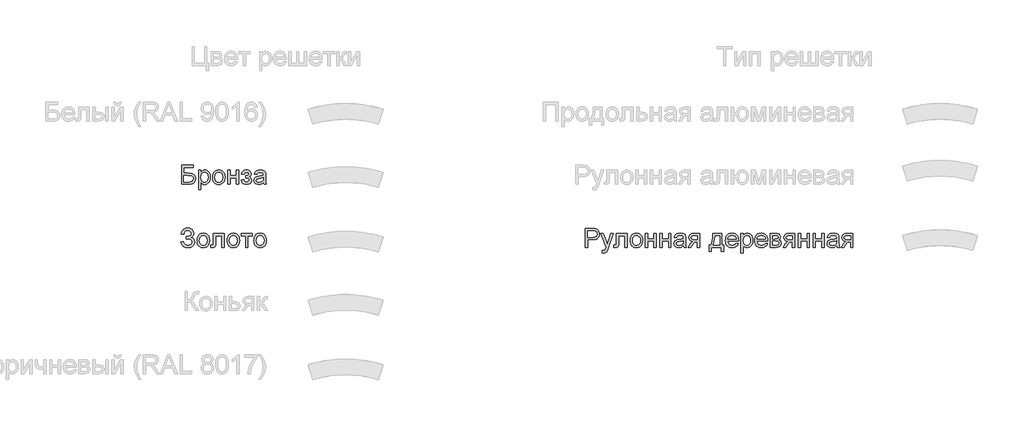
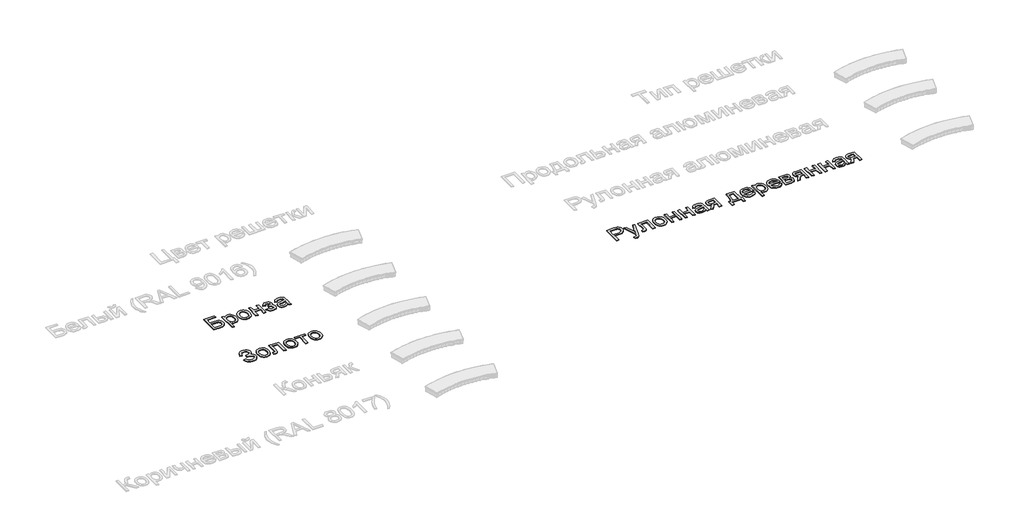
# One storey, part 4 of 9: 3 proxies.
"""IFC4 building model written with IfcOpenShell, lengths in millimetres."""

from ifc_helpers import new_model, si_unit, origin, origin_with_axes, place, context, project, spatial, polyline, outline, extrude, element, save

model = new_model("IFC4")

# Units and contexts
model_context = context("Model", 3, world=origin())
ifc_project = project(units=[si_unit("LENGTHUNIT", "METRE", prefix="MILLI")], contexts=[model_context])

# Site, building, storey
site = spatial("IfcSite", under=ifc_project)
building = spatial("IfcBuilding", under=site)
storey = spatial("IfcBuildingStorey", under=building, Name="Уровень 1", Elevation=0.0)

# Proxies
placement = place(None, origin())
element("IfcBuildingElementProxy", 1, Name="Текст модели 1", ObjectType="Текст модели 1", at=placement, inside=storey, context=model_context, shape_type="SweptSolid", body=[
    extrude(outline(polyline([(-567.2180142, -3424.9415006), (-378.8624326, -3424.9415006), (-378.8624326, -3462.6126169), (-529.5468979, -3462.6126169), (-529.5468979, -3552.0815182), (-458.9871312, -3552.0815182), (-423.9095829, -3553.9945045), (-396.815074, -3559.7334637), (-376.0113472, -3570.7883176), (-359.8061453, -3588.6489885), (-349.3766907, -3611.6416132), (-345.9002059, -3638.0923286), (-348.3742123, -3660.3032041), (-355.7962315, -3681.0241575), (-368.1294754, -3699.1699369), (-385.3371557, -3713.6552904), (-411.8798417, -3723.1466459), (-452.2181025, -3726.3104311), (-567.2180142, -3726.3104311), (-567.2180142, -3424.9415006)]), holes=[polyline([(-529.5468979, -3688.6393148), (-448.8335881, -3688.6393148), (-420.3043394, -3685.5307119), (-399.9052828, -3676.2049033), (-387.6548123, -3660.661889), (-383.5713222, -3638.901669), (-385.9073728, -3622.6964671), (-392.9155248, -3609.397533), (-404.0899405, -3599.5382955), (-418.9247819, -3593.6521836), (-475.6889738, -3589.7526345), (-529.5468979, -3589.7526345), (-529.5468979, -3688.6393148)])]), origin_with_axes(), (0.0, 0.0, 1.0), 10.0),
    extrude(outline(polyline([(-298.8113105, -3811.0704428), (-298.8113105, -3504.9926228), (-261.1401942, -3504.9926228), (-261.1401942, -3541.9279751), (-248.8529355, -3523.7086193), (-235.0941489, -3510.6947937), (-219.0544939, -3502.8864984), (-199.9246302, -3500.2837332), (-174.448802, -3503.925765), (-152.1735472, -3514.8518603), (-134.0369648, -3532.3998314), (-120.977154, -3555.9074909), (-113.0860852, -3583.6641875), (-110.455729, -3613.9592698), (-113.4263761, -3646.1765355), (-122.3383174, -3674.9908928), (-136.9064444, -3698.9400106), (-156.8456485, -3716.5615582), (-180.0681995, -3727.40488), (-204.4863669, -3731.0193206), (-221.8044118, -3728.6004965), (-237.2646527, -3721.3440241), (-250.4992075, -3710.3903377), (-261.1401942, -3696.8798715), (-261.1401942, -3811.0704428), (-298.8113105, -3811.0704428)]), holes=[polyline([(-261.1401942, -3617.4173605), (-257.0659011, -3651.1889277), (-244.8430218, -3674.8069518), (-226.807607, -3688.7128912), (-205.2957073, -3693.3482043), (-183.4343197, -3688.5473443), (-164.9390524, -3674.1447642), (-152.3298971, -3649.6622174), (-148.1268453, -3614.6214573), (-152.2287295, -3581.0338312), (-164.5343822, -3557.0847133), (-182.5422059, -3542.7373155), (-203.7506029, -3537.9548496), (-225.0417734, -3543.0408181), (-243.7393758, -3558.2987239), (-256.7899896, -3583.2503202), (-261.1401942, -3617.4173605)])]), origin_with_axes(), (0.0, 0.0, 1.0), 10.0),
    extrude(outline(polyline([(-77.4935022, -3615.6515269), (-75.4563556, -3586.988921), (-69.344916, -3562.2902435), (-59.1591832, -3541.5554946), (-44.8991574, -3524.7846741), (-30.5425625, -3514.0655125), (-14.6960456, -3506.4089685), (2.6403934, -3501.815042), (21.4667545, -3500.2837332), (42.249788, -3502.1484351), (61.0416602, -3507.7425407), (77.842371, -3517.06605), (92.6519206, -3530.1189631), (104.7391434, -3546.4598214), (113.372874, -3565.6471667), (118.5531123, -3587.680999), (120.2798584, -3612.5613182), (117.2264379, -3650.6187106), (108.0661762, -3679.5894177), (93.0657878, -3701.2852584), (72.4919873, -3717.5180514), (48.0554257, -3727.6440033), (21.4667545, -3731.0193206), (0.3802184, -3729.1615165), (-18.5863977, -3723.5881043), (-35.4330938, -3714.2990839), (-50.1598699, -3701.2944554), (-62.118334, -3684.7949479), (-70.6600941, -3665.0212907), (-75.7851502, -3641.9734837), (-77.4935022, -3615.6515269)]), holes=[polyline([(-39.8223859, -3615.5779505), (-35.4629842, -3649.6714144), (-22.3847793, -3673.9608232), (-2.7030926, -3688.501359), (21.4667545, -3693.3482043), (45.526237, -3688.4737679), (65.1711355, -3673.8504586), (78.2493405, -3649.2391531), (82.6087421, -3614.4007281), (78.2217493, -3581.3005456), (65.0607709, -3557.3422307), (45.3882813, -3542.8016948), (21.4667545, -3537.9548496), (-2.7030926, -3542.7833007), (-22.3847793, -3557.2686543), (-35.4629842, -3581.5028807), (-39.8223859, -3615.5779505)])]), origin_with_axes(), (0.0, 0.0, 1.0), 10.0),
    extrude(outline(polyline([(162.6598643, -3504.9926228), (200.3309806, -3504.9926228), (200.3309806, -3589.7526345), (299.2176609, -3589.7526345), (299.2176609, -3504.9926228), (336.8887772, -3504.9926228), (336.8887772, -3726.3104311), (299.2176609, -3726.3104311), (299.2176609, -3627.4237508), (200.3309806, -3627.4237508), (200.3309806, -3726.3104311), (162.6598643, -3726.3104311), (162.6598643, -3504.9926228)])), origin_with_axes(), (0.0, 0.0, 1.0), 10.0),
    extrude(outline(polyline([(445.1932366, -3627.4237508), (445.1932366, -3589.7526345), (474.9181018, -3588.2811065), (489.9276872, -3580.44522), (495.2251879, -3573.0967771), (496.9910215, -3564.0744712), (494.6273797, -3553.3599081), (487.5364542, -3545.0549721), (476.7115265, -3539.7298802), (463.1458779, -3537.9548496), (449.4330766, -3539.7206831), (437.9459613, -3545.0181839), (428.684532, -3553.8473517), (421.6487889, -3566.2081868), (379.268783, -3561.4992972), (390.507578, -3534.717488), (407.5956967, -3515.5876242), (430.5331391, -3504.109706), (459.3199052, -3500.2837332), (490.810604, -3504.9466375), (514.6493573, -3518.9353504), (529.6589427, -3539.3987864), (534.6621378, -3563.48586), (532.8825086, -3575.8466951), (527.5436212, -3586.8831549), (518.6454754, -3596.5952396), (506.1880714, -3604.9829491), (520.7286072, -3615.4491918), (531.0936824, -3628.4538204), (537.3016911, -3644.0336229), (539.3710273, -3662.2253875), (534.1195118, -3689.9544929), (518.3649654, -3711.9262451), (493.1742458, -3726.2460517), (459.6142108, -3731.0193206), (426.7899398, -3726.6047367), (401.6727965, -3713.3609849), (384.2627811, -3691.2880651), (374.5598935, -3660.3859775), (416.9398993, -3655.677088), (423.2858638, -3671.6063784), (433.9360475, -3683.4889668), (447.6580459, -3690.8833949), (463.2194543, -3693.3482043), (478.3761925, -3690.9845625), (490.7370276, -3683.893637), (498.9591902, -3673.1238916), (501.699911, -3659.72379), (499.9984568, -3649.1103944), (494.8940941, -3639.9317386), (480.3995435, -3629.3367372), (452.5508765, -3627.2030216), (445.1932366, -3627.4237508)])), origin_with_axes(), (0.0, 0.0, 1.0), 10.0),
    extrude(outline(polyline([(727.7266089, -3698.0570939), (709.7279822, -3713.4897435), (691.1959267, -3723.5881043), (671.707378, -3729.1615165), (650.8392719, -3731.0193206), (619.3577701, -3726.5495544), (596.1352192, -3713.1402557), (581.8154125, -3692.7779872), (577.0421436, -3667.4493119), (578.8447654, -3651.8327212), (584.2526307, -3637.6508702), (592.594355, -3625.5107644), (603.1985535, -3616.0194089), (629.5756925, -3603.6585739), (662.1700373, -3597.9931912), (700.6872822, -3592.0335028), (727.5058797, -3585.0437449), (727.7266089, -3576.6560354), (725.1330408, -3559.8438283), (717.3523366, -3548.8441566), (699.9515182, -3540.6771763), (675.7080947, -3537.9548496), (653.267293, -3539.7666684), (637.59552, -3545.2021249), (626.9085481, -3555.2545004), (619.4221495, -3570.9170763), (581.7510332, -3566.2081868), (588.2901356, -3545.6067951), (598.0482056, -3529.4199873), (611.9357509, -3517.0407581), (630.8632795, -3507.8621023), (654.0122541, -3502.1783255), (680.5641371, -3500.2837332), (706.0307682, -3501.9575963), (726.2182927, -3506.9791856), (741.4394102, -3514.5299635), (752.0068205, -3523.7913927), (759.0149725, -3535.2417198), (763.5583152, -3549.3591914), (765.3977252, -3582.3214182), (765.3977252, -3629.1895844), (767.3107115, -3694.6357913), (774.8155042, -3726.3104311), (737.1443879, -3726.3104311), (727.7266089, -3698.0570939)]), holes=[polyline([(727.7266089, -3622.7148612), (666.9525033, -3634.2663559), (634.5420995, -3640.373197), (619.8636079, -3650.3060109), (614.7132599, -3664.8005615), (617.5183602, -3676.0025682), (625.9336608, -3685.181224), (639.7752209, -3691.3064592), (658.8590994, -3693.3482043), (679.0926091, -3691.0949271), (696.9716741, -3684.3350954), (711.4662247, -3674.3746904), (721.5461913, -3662.5196931), (726.0159576, -3650.3060109), (727.5058797, -3633.3834391), (727.7266089, -3622.7148612)])]), origin_with_axes(), (0.0, 0.0, 1.0), 10.0),
])
element("IfcBuildingElementProxy", 2, Name="Текст модели 1", ObjectType="Текст модели 1", at=placement, inside=storey, context=model_context, shape_type="SweptSolid", body=[
    extrude(outline(polyline([(-576.6357932, -4641.5504194), (-538.9646769, -4632.1326403), (-531.0092288, -4652.5224999), (-515.8248994, -4672.9307536), (-493.9635119, -4688.2438416), (-465.9768891, -4693.3482043), (-437.6223843, -4689.5130345), (-415.9817259, -4678.0075251), (-402.2689246, -4661.0757563), (-397.6979908, -4640.9618082), (-402.6919889, -4619.8913669), (-417.6739831, -4603.6217857), (-441.2644161, -4593.2199223), (-472.0837302, -4589.7526345), (-491.8757816, -4589.7526345), (-491.8757816, -4552.0815182), (-449.2382583, -4549.0280976), (-435.3415159, -4543.6018382), (-423.1554249, -4533.429901), (-414.6573508, -4520.0297993), (-411.8246594, -4504.9190464), (-415.5954499, -4487.1779372), (-426.9078212, -4471.9200314), (-444.6581275, -4461.4078034), (-467.7427227, -4457.9037274), (-488.6108288, -4460.598463), (-506.1863912, -4468.6826699), (-519.6508722, -4481.2182488), (-528.1857345, -4497.2671009), (-534.2557874, -4523.8281809), (-571.9269037, -4514.4104019), (-560.2236577, -4473.2076184), (-550.8093275, -4457.0208106), (-539.0198592, -4443.7770588), (-524.8552528, -4433.4763629), (-508.3155082, -4426.118723), (-489.4006255, -4421.7041391), (-468.1106047, -4420.2326111), (-447.5988842, -4421.7616206), (-429.3266453, -4426.3486493), (-413.2938881, -4433.993697), (-399.5006126, -4444.6967638), (-388.4112697, -4457.4461742), (-380.4903105, -4471.2302527), (-375.7377349, -4486.0489993), (-374.1535431, -4501.902414), (-376.6183525, -4521.726655), (-384.0127806, -4539.1872542), (-396.3368274, -4554.2842116), (-413.590493, -4567.0175272), (-392.6396134, -4576.6652325), (-375.4043419, -4592.9532078), (-363.8712413, -4614.4835016), (-360.0268745, -4639.8581622), (-361.870883, -4658.489086), (-367.4029085, -4675.5335187), (-376.622951, -4690.9914603), (-389.5310105, -4704.8629108), (-405.4832935, -4716.3063401), (-423.8360065, -4724.4802182), (-444.5891496, -4729.384545), (-467.7427227, -4731.0193206), (-505.9472679, -4725.4275143), (-522.3042211, -4718.4377564), (-536.8309614, -4708.6520953), (-549.5274887, -4696.0705311), (-560.3938032, -4680.6930637), (-576.6357932, -4641.5504194)])), origin_with_axes(), (0.0, 0.0, 1.0), 10.0),
    extrude(outline(polyline([(-322.3557582, -4615.6515269), (-320.3186116, -4586.988921), (-314.207172, -4562.2902435), (-304.0214392, -4541.5554946), (-289.7614134, -4524.7846741), (-275.4048185, -4514.0655125), (-259.5583016, -4506.4089685), (-242.2218626, -4501.815042), (-223.3955015, -4500.2837332), (-202.612468, -4502.1484351), (-183.8205958, -4507.7425407), (-167.019885, -4517.06605), (-152.2103354, -4530.1189631), (-140.1231126, -4546.4598214), (-131.489382, -4565.6471667), (-126.3091437, -4587.680999), (-124.5823976, -4612.5613182), (-127.6358181, -4650.6187106), (-136.7960798, -4679.5894177), (-151.7964682, -4701.2852584), (-172.3702687, -4717.5180514), (-196.8068303, -4727.6440033), (-223.3955015, -4731.0193206), (-244.4820376, -4729.1615165), (-263.4486537, -4723.5881043), (-280.2953498, -4714.2990839), (-295.0221259, -4701.2944554), (-306.98059, -4684.7949479), (-315.5223501, -4665.0212907), (-320.6474062, -4641.9734837), (-322.3557582, -4615.6515269)]), holes=[polyline([(-284.6846419, -4615.5779505), (-280.3252402, -4649.6714144), (-267.2470353, -4673.9608232), (-247.5653486, -4688.501359), (-223.3955015, -4693.3482043), (-199.336019, -4688.4737679), (-179.6911204, -4673.8504586), (-166.6129155, -4649.2391531), (-162.2535139, -4614.4007281), (-166.6405067, -4581.3005456), (-179.801485, -4557.3422307), (-199.4739747, -4542.8016948), (-223.3955015, -4537.9548496), (-247.5653486, -4542.7833007), (-267.2470353, -4557.2686543), (-280.3252402, -4581.5028807), (-284.6846419, -4615.5779505)])]), origin_with_axes(), (0.0, 0.0, 1.0), 10.0),
    extrude(outline(polyline([(-63.3668336, -4504.9926228), (106.1531898, -4504.9926228), (106.1531898, -4726.0897019), (68.4820735, -4726.0897019), (68.4820735, -4542.6637391), (-25.6957173, -4542.6637391), (-25.6957173, -4648.2458717), (-28.234103, -4696.9534479), (-32.9889778, -4707.9807107), (-42.1768306, -4717.5180514), (-56.1195583, -4724.1123362), (-75.1390574, -4726.3104311), (-105.7468394, -4724.3974447), (-105.7468394, -4688.6393148), (-88.897844, -4688.6393148), (-71.8649077, -4686.3216582), (-65.0590907, -4678.9640183), (-63.3668336, -4646.1121561), (-63.3668336, -4504.9926228)])), origin_with_axes(), (0.0, 0.0, 1.0), 10.0),
    extrude(outline(polyline([(153.2420852, -4615.6515269), (155.2792317, -4586.988921), (161.3906714, -4562.2902435), (171.5764041, -4541.5554946), (185.83643, -4524.7846741), (200.1930248, -4514.0655125), (216.0395418, -4506.4089685), (233.3759808, -4501.815042), (252.2023419, -4500.2837332), (272.9853754, -4502.1484351), (291.7772475, -4507.7425407), (308.5779584, -4517.06605), (323.387508, -4530.1189631), (335.4747308, -4546.4598214), (344.1084613, -4565.6471667), (349.2886997, -4587.680999), (351.0154458, -4612.5613182), (347.9620252, -4650.6187106), (338.8017636, -4679.5894177), (323.8013752, -4701.2852584), (303.2275746, -4717.5180514), (278.7910131, -4727.6440033), (252.2023419, -4731.0193206), (231.1158058, -4729.1615165), (212.1491897, -4723.5881043), (195.3024936, -4714.2990839), (180.5757174, -4701.2944554), (168.6172533, -4684.7949479), (160.0754933, -4665.0212907), (154.9504372, -4641.9734837), (153.2420852, -4615.6515269)]), holes=[polyline([(190.9132015, -4615.5779505), (195.2726031, -4649.6714144), (208.3508081, -4673.9608232), (228.0324948, -4688.501359), (252.2023419, -4693.3482043), (276.2618244, -4688.4737679), (295.9067229, -4673.8504586), (308.9849278, -4649.2391531), (313.3443295, -4614.4007281), (308.9573367, -4581.3005456), (295.7963583, -4557.3422307), (276.1238686, -4542.8016948), (252.2023419, -4537.9548496), (228.0324948, -4542.7833007), (208.3508081, -4557.2686543), (195.2726031, -4581.5028807), (190.9132015, -4615.5779505)])]), origin_with_axes(), (0.0, 0.0, 1.0), 10.0),
    extrude(outline(polyline([(374.5598935, -4504.9926228), (553.4976959, -4504.9926228), (553.4976959, -4542.6637391), (482.8643529, -4542.6637391), (482.8643529, -4726.3104311), (445.1932366, -4726.3104311), (445.1932366, -4542.6637391), (374.5598935, -4542.6637391), (374.5598935, -4504.9926228)])), origin_with_axes(), (0.0, 0.0, 1.0), 10.0),
    extrude(outline(polyline([(577.0421436, -4615.6515269), (579.0792902, -4586.988921), (585.1907298, -4562.2902435), (595.3764626, -4541.5554946), (609.6364884, -4524.7846741), (623.9930833, -4514.0655125), (639.8396002, -4506.4089685), (657.1760392, -4501.815042), (676.0024003, -4500.2837332), (696.7854338, -4502.1484351), (715.577306, -4507.7425407), (732.3780168, -4517.06605), (747.1875664, -4530.1189631), (759.2747892, -4546.4598214), (767.9085198, -4565.6471667), (773.0887581, -4587.680999), (774.8155042, -4612.5613182), (771.7620837, -4650.6187106), (762.601822, -4679.5894177), (747.6014336, -4701.2852584), (727.0276331, -4717.5180514), (702.5910715, -4727.6440033), (676.0024003, -4731.0193206), (654.9158642, -4729.1615165), (635.9492481, -4723.5881043), (619.102552, -4714.2990839), (604.3757759, -4701.2944554), (592.4173118, -4684.7949479), (583.8755517, -4665.0212907), (578.7504957, -4641.9734837), (577.0421436, -4615.6515269)]), holes=[polyline([(614.7132599, -4615.5779505), (619.0726616, -4649.6714144), (632.1508665, -4673.9608232), (651.8325533, -4688.501359), (676.0024003, -4693.3482043), (700.0618828, -4688.4737679), (719.7067814, -4673.8504586), (732.7849863, -4649.2391531), (737.1443879, -4614.4007281), (732.7573951, -4581.3005456), (719.5964168, -4557.3422307), (699.9239271, -4542.8016948), (676.0024003, -4537.9548496), (651.8325533, -4542.7833007), (632.1508665, -4557.2686543), (619.0726616, -4581.5028807), (614.7132599, -4615.5779505)])]), origin_with_axes(), (0.0, 0.0, 1.0), 10.0),
])
element("IfcBuildingElementProxy", 3, Name="Текст модели 1", ObjectType="Текст модели 1", at=placement, inside=storey, context=model_context, shape_type="SweptSolid", body=[
    extrude(outline(polyline([(5815.900437, -4726.3104311), (5815.900437, -4424.9415006), (5927.5894108, -4424.9415006), (5972.618167, -4427.8109802), (5992.6953268, -4433.1728603), (6009.2224255, -4441.9008606), (6022.5305567, -4454.3904543), (6032.9508142, -4471.0371146), (6039.6830547, -4490.6728161), (6041.9271349, -4512.1295335), (6040.4119209, -4530.6293993), (6035.866279, -4547.6485401), (6028.2902091, -4563.1869559), (6017.6837114, -4577.2446466), (6003.1224821, -4588.8973088), (5983.682218, -4597.220639), (5959.3629188, -4602.2146371), (5930.1645847, -4603.8793031), (5853.5715533, -4603.8793031), (5853.5715533, -4726.3104311), (5815.900437, -4726.3104311)]), holes=[polyline([(5853.5715533, -4566.2081868), (5932.3718767, -4566.2081868), (5965.7755619, -4562.750096), (5987.8484816, -4552.3758238), (6000.1541343, -4535.7291635), (6004.2560185, -4513.4539087), (6001.8371944, -4496.5313369), (5994.5807221, -4482.2575155), (5983.3879124, -4471.5153612), (5969.1600762, -4465.1877909), (5931.4889599, -4462.6126169), (5853.5715533, -4462.6126169), (5853.5715533, -4566.2081868)])]), origin_with_axes(), (0.0, 0.0, 1.0), 10.0),
    extrude(outline(polyline([(6089.0160302, -4811.0704428), (6084.3071407, -4774.797278), (6103.4370044, -4778.108216), (6121.3160694, -4773.9511495), (6132.2789529, -4762.3628666), (6142.5796487, -4734.6245642), (6145.5227047, -4725.5010907), (6065.4715825, -4504.9926228), (6105.202838, -4504.9926228), (6147.6564203, -4627.8652092), (6162.4452765, -4677.0142437), (6177.2341327, -4633.6041683), (6220.8649373, -4504.9926228), (6260.3018872, -4504.9926228), (6183.2673974, -4731.6079318), (6163.2546169, -4780.7569664), (6153.0091033, -4796.4471335), (6141.4024263, -4807.3180464), (6127.9195512, -4813.6640108), (6112.0454431, -4815.7793323), (6089.0160302, -4811.0704428)])), origin_with_axes(), (0.0, 0.0, 1.0), 10.0),
    extrude(outline(polyline([(6310.3338385, -4504.9926228), (6479.8538619, -4504.9926228), (6479.8538619, -4726.0897019), (6442.1827456, -4726.0897019), (6442.1827456, -4542.6637391), (6348.0049548, -4542.6637391), (6348.0049548, -4648.2458717), (6345.4665691, -4696.9534479), (6340.7116943, -4707.9807107), (6331.5238415, -4717.5180514), (6317.5811138, -4724.1123362), (6298.5616147, -4726.3104311), (6267.9538327, -4724.3974447), (6267.9538327, -4688.6393148), (6284.8028281, -4688.6393148), (6301.8357644, -4686.3216582), (6308.6415814, -4678.9640183), (6310.3338385, -4646.1121561), (6310.3338385, -4504.9926228)])), origin_with_axes(), (0.0, 0.0, 1.0), 10.0),
    extrude(outline(polyline([(6526.9427573, -4615.6515269), (6528.9799038, -4586.988921), (6535.0913435, -4562.2902435), (6545.2770762, -4541.5554946), (6559.5371021, -4524.7846741), (6573.8936969, -4514.0655125), (6589.7402139, -4506.4089685), (6607.0766529, -4501.815042), (6625.903014, -4500.2837332), (6646.6860475, -4502.1484351), (6665.4779196, -4507.7425407), (6682.2786305, -4517.06605), (6697.0881801, -4530.1189631), (6709.1754029, -4546.4598214), (6717.8091334, -4565.6471667), (6722.9893718, -4587.680999), (6724.7161179, -4612.5613182), (6721.6626973, -4650.6187106), (6712.5024357, -4679.5894177), (6697.5020473, -4701.2852584), (6676.9282467, -4717.5180514), (6652.4916852, -4727.6440033), (6625.903014, -4731.0193206), (6604.8164779, -4729.1615165), (6585.8498618, -4723.5881043), (6569.0031657, -4714.2990839), (6554.2763895, -4701.2944554), (6542.3179254, -4684.7949479), (6533.7761654, -4665.0212907), (6528.6511093, -4641.9734837), (6526.9427573, -4615.6515269)]), holes=[polyline([(6564.6138736, -4615.5779505), (6568.9732752, -4649.6714144), (6582.0514802, -4673.9608232), (6601.7331669, -4688.501359), (6625.903014, -4693.3482043), (6649.9624965, -4688.4737679), (6669.607395, -4673.8504586), (6682.6856, -4649.2391531), (6687.0450016, -4614.4007281), (6682.6580088, -4581.3005456), (6669.4970304, -4557.3422307), (6649.8245407, -4542.8016948), (6625.903014, -4537.9548496), (6601.7331669, -4542.7833007), (6582.0514802, -4557.2686543), (6568.9732752, -4581.5028807), (6564.6138736, -4615.5779505)])]), origin_with_axes(), (0.0, 0.0, 1.0), 10.0),
    extrude(outline(polyline([(6767.0961237, -4504.9926228), (6804.7672401, -4504.9926228), (6804.7672401, -4589.7526345), (6903.6539204, -4589.7526345), (6903.6539204, -4504.9926228), (6941.3250367, -4504.9926228), (6941.3250367, -4726.3104311), (6903.6539204, -4726.3104311), (6903.6539204, -4627.4237508), (6804.7672401, -4627.4237508), (6804.7672401, -4726.3104311), (6767.0961237, -4726.3104311), (6767.0961237, -4504.9926228)])), origin_with_axes(), (0.0, 0.0, 1.0), 10.0),
    extrude(outline(polyline([(6997.8317111, -4504.9926228), (7035.5028274, -4504.9926228), (7035.5028274, -4589.7526345), (7134.3895077, -4589.7526345), (7134.3895077, -4504.9926228), (7172.060624, -4504.9926228), (7172.060624, -4726.3104311), (7134.3895077, -4726.3104311), (7134.3895077, -4627.4237508), (7035.5028274, -4627.4237508), (7035.5028274, -4726.3104311), (6997.8317111, -4726.3104311), (6997.8317111, -4504.9926228)])), origin_with_axes(), (0.0, 0.0, 1.0), 10.0),
    extrude(outline(polyline([(7369.8339846, -4698.0570939), (7351.835358, -4713.4897435), (7333.3033025, -4723.5881043), (7313.8147538, -4729.1615165), (7292.9466477, -4731.0193206), (7261.4651459, -4726.5495544), (7238.242595, -4713.1402557), (7223.9227883, -4692.7779872), (7219.1495194, -4667.4493119), (7220.9521412, -4651.8327212), (7226.3600065, -4637.6508702), (7234.7017308, -4625.5107644), (7245.3059293, -4616.0194089), (7271.6830683, -4603.6585739), (7304.2774131, -4597.9931912), (7342.794658, -4592.0335028), (7369.6132554, -4585.0437449), (7369.8339846, -4576.6560354), (7367.2404166, -4559.8438283), (7359.4597124, -4548.8441566), (7342.058894, -4540.6771763), (7317.8154705, -4537.9548496), (7295.3746688, -4539.7666684), (7279.7028958, -4545.2021249), (7269.0159239, -4555.2545004), (7261.5295253, -4570.9170763), (7223.858409, -4566.2081868), (7230.3975114, -4545.6067951), (7240.1555813, -4529.4199873), (7254.0431267, -4517.0407581), (7272.9706553, -4507.8621023), (7296.1196299, -4502.1783255), (7322.6715129, -4500.2837332), (7348.138144, -4501.9575963), (7368.3256685, -4506.9791856), (7383.546786, -4514.5299635), (7394.1141963, -4523.7913927), (7401.1223483, -4535.2417198), (7405.665691, -4549.3591914), (7407.5051009, -4582.3214182), (7407.5051009, -4629.1895844), (7409.4180873, -4694.6357913), (7416.92288, -4726.3104311), (7379.2517637, -4726.3104311), (7369.8339846, -4698.0570939)]), holes=[polyline([(7369.8339846, -4622.7148612), (7309.059879, -4634.2663559), (7276.6494753, -4640.373197), (7261.9709837, -4650.3060109), (7256.8206357, -4664.8005615), (7259.6257359, -4676.0025682), (7268.0410366, -4685.181224), (7281.8825966, -4691.3064592), (7300.9664751, -4693.3482043), (7321.1999849, -4691.0949271), (7339.0790498, -4684.3350954), (7353.5736005, -4674.3746904), (7363.6535671, -4662.5196931), (7368.1233334, -4650.3060109), (7369.6132554, -4633.3834391), (7369.8339846, -4622.7148612)])]), origin_with_axes(), (0.0, 0.0, 1.0), 10.0),
    extrude(outline(polyline([(7628.8229092, -4504.9926228), (7628.8229092, -4726.3104311), (7591.1517929, -4726.3104311), (7591.1517929, -4641.5504194), (7570.6239776, -4641.5504194), (7542.664946, -4646.3328853), (7531.4997274, -4656.7623399), (7516.3981715, -4678.4857717), (7486.3790007, -4726.3104311), (7442.8217725, -4726.3104311), (7480.6400416, -4665.8306311), (7497.3418842, -4644.1255934), (7512.7193516, -4634.4870851), (7486.9676119, -4626.5960163), (7468.8678177, -4611.604825), (7458.1624517, -4591.6656208), (7454.5939963, -4568.9305135), (7459.4684328, -4543.1419857), (7474.0917421, -4522.724535), (7497.9488895, -4509.4256008), (7530.5248401, -4504.9926228), (7628.8229092, -4504.9926228)]), holes=[polyline([(7591.1517929, -4542.6637391), (7541.4877236, -4542.6637391), (7515.8371515, -4544.8434399), (7501.2782215, -4551.3825424), (7494.5183899, -4560.8463067), (7492.2651126, -4571.7999931), (7495.5852476, -4586.156588), (7505.5456527, -4596.116993), (7523.9489495, -4601.9387256), (7552.5977598, -4603.8793031), (7591.1517929, -4603.8793031), (7591.1517929, -4542.6637391)])]), origin_with_axes(), (0.0, 0.0, 1.0), 10.0),
    extrude(outline(polyline([(7836.0140489, -4504.9926228), (7977.2807351, -4504.9926228), (7977.2807351, -4688.6393148), (8005.5340723, -4688.6393148), (8005.5340723, -4787.5259951), (7967.862956, -4787.5259951), (7967.862956, -4726.3104311), (7812.4696012, -4726.3104311), (7812.4696012, -4787.5259951), (7774.7984849, -4787.5259951), (7774.7984849, -4688.6393148), (7798.3429326, -4688.6393148), (7815.4586425, -4657.709636), (7827.4423984, -4616.7919611), (7834.2942006, -4565.88629), (7836.0140489, -4504.9926228)]), holes=[polyline([(7868.9762757, -4542.6637391), (7865.8860669, -4588.7869442), (7860.1471078, -4628.4906086), (7851.7593983, -4661.7747321), (7840.7229385, -4688.6393148), (7939.6096188, -4688.6393148), (7939.6096188, -4542.6637391), (7868.9762757, -4542.6637391)])]), origin_with_axes(), (0.0, 0.0, 1.0), 10.0),
    extrude(outline(polyline([(8202.8659745, -4660.3859775), (8239.8013268, -4665.0948671), (8226.4931957, -4692.92514), (8205.2572075, -4713.7288668), (8176.5716089, -4726.6967072), (8140.9146465, -4731.0193206), (8117.5403443, -4729.1546188), (8096.7136248, -4723.5605132), (8078.4344882, -4714.2370039), (8062.7029344, -4701.1840908), (8050.0523922, -4684.7650575), (8041.0162907, -4665.3431874), (8035.5946298, -4642.9184806), (8033.7874095, -4617.4909369), (8035.6130239, -4591.2011698), (8041.0898671, -4568.0292027), (8050.2179391, -4547.9750354), (8062.99724, -4531.038668), (8078.687407, -4517.5833841), (8096.5480779, -4507.9724669), (8116.5792526, -4502.2059167), (8138.780931, -4500.2837332), (8160.2675387, -4502.2013181), (8179.6986059, -4507.9540728), (8197.0741324, -4517.5419973), (8212.3941182, -4530.9650916), (8224.8998068, -4547.8646708), (8233.8324415, -4567.8820499), (8239.1920223, -4591.0172288), (8240.9785492, -4617.2702077), (8240.75782, -4627.4237508), (8071.4585258, -4627.4237508), (8077.9792342, -4655.6219057), (8093.1267754, -4676.3520561), (8114.9881629, -4689.0991673), (8141.6504105, -4693.3482043), (8161.6999793, -4691.3800356), (8178.5857628, -4685.4755296), (8192.3077613, -4675.2668043), (8202.8659745, -4660.3859775)]), holes=[polyline([(8071.4585258, -4589.7526345), (8203.3074329, -4589.7526345), (8198.2122673, -4569.8502185), (8188.2242711, -4555.6131853), (8166.261716, -4542.3694335), (8138.6337782, -4537.9548496), (8113.2407234, -4541.4773197), (8092.2438586, -4552.04473), (8077.6481404, -4568.5166463), (8071.4585258, -4589.7526345)])]), origin_with_axes(), (0.0, 0.0, 1.0), 10.0),
    extrude(outline(polyline([(8278.6496655, -4811.0704428), (8278.6496655, -4504.9926228), (8316.3207818, -4504.9926228), (8316.3207818, -4541.9279751), (8328.6080405, -4523.7086193), (8342.3668271, -4510.6947937), (8358.4064821, -4502.8864984), (8377.5363458, -4500.2837332), (8403.012174, -4503.925765), (8425.2874288, -4514.8518603), (8443.4240112, -4532.3998314), (8456.483822, -4555.9074909), (8464.3748908, -4583.6641875), (8467.0052471, -4613.9592698), (8464.0345999, -4646.1765355), (8455.1226586, -4674.9908928), (8440.5545316, -4698.9400106), (8420.6153275, -4716.5615582), (8397.3927765, -4727.40488), (8372.9746091, -4731.0193206), (8355.6565642, -4728.6004965), (8340.1963233, -4721.3440241), (8326.9617685, -4710.3903377), (8316.3207818, -4696.8798715), (8316.3207818, -4811.0704428), (8278.6496655, -4811.0704428)]), holes=[polyline([(8316.3207818, -4617.4173605), (8320.3950749, -4651.1889277), (8332.6179542, -4674.8069518), (8350.653369, -4688.7128912), (8372.1652687, -4693.3482043), (8394.0266563, -4688.5473443), (8412.5219236, -4674.1447642), (8425.131079, -4649.6622174), (8429.3341308, -4614.6214573), (8425.2322465, -4581.0338312), (8412.9265938, -4557.0847133), (8394.9187701, -4542.7373155), (8373.7103731, -4537.9548496), (8352.4192026, -4543.0408181), (8333.7216002, -4558.2987239), (8320.6709864, -4583.2503202), (8316.3207818, -4617.4173605)])]), origin_with_axes(), (0.0, 0.0, 1.0), 10.0),
    extrude(outline(polyline([(8664.3371493, -4660.3859775), (8701.2725016, -4665.0948671), (8687.9643704, -4692.92514), (8666.7283822, -4713.7288668), (8638.0427837, -4726.6967072), (8602.3858213, -4731.0193206), (8579.011519, -4729.1546188), (8558.1847996, -4723.5605132), (8539.9056629, -4714.2370039), (8524.1741091, -4701.1840908), (8511.523567, -4684.7650575), (8502.4874655, -4665.3431874), (8497.0658046, -4642.9184806), (8495.2585843, -4617.4909369), (8497.0841987, -4591.2011698), (8502.5610419, -4568.0292027), (8511.6891139, -4547.9750354), (8524.4684147, -4531.038668), (8540.1585818, -4517.5833841), (8558.0192527, -4507.9724669), (8578.0504273, -4502.2059167), (8600.2521057, -4500.2837332), (8621.7387135, -4502.2013181), (8641.1697806, -4507.9540728), (8658.5453071, -4517.5419973), (8673.8652929, -4530.9650916), (8686.3709815, -4547.8646708), (8695.3036162, -4567.8820499), (8700.663197, -4591.0172288), (8702.449724, -4617.2702077), (8702.2289948, -4627.4237508), (8532.9297006, -4627.4237508), (8539.450409, -4655.6219057), (8554.5979501, -4676.3520561), (8576.4593377, -4689.0991673), (8603.1215853, -4693.3482043), (8623.171154, -4691.3800356), (8640.0569376, -4685.4755296), (8653.778936, -4675.2668043), (8664.3371493, -4660.3859775)]), holes=[polyline([(8532.9297006, -4589.7526345), (8664.7786077, -4589.7526345), (8659.683442, -4569.8502185), (8649.6954459, -4555.6131853), (8627.7328908, -4542.3694335), (8600.1049529, -4537.9548496), (8574.7118982, -4541.4773197), (8553.7150333, -4552.04473), (8539.1193152, -4568.5166463), (8532.9297006, -4589.7526345)])]), origin_with_axes(), (0.0, 0.0, 1.0), 10.0),
    extrude(outline(polyline([(8740.1208403, -4504.9926228), (8823.1150184, -4504.9926228), (8849.7956601, -4506.2526186), (8868.6220212, -4510.0326061), (8882.4727783, -4517.1695168), (8894.2266081, -4528.5002823), (8902.2556326, -4543.2615473), (8904.9319741, -4560.6899569), (8903.3132933, -4574.733852), (8898.457251, -4586.8463667), (8890.345453, -4597.0826832), (8878.9595053, -4605.4979839), (8892.9022329, -4613.3246733), (8904.2697865, -4625.9154346), (8911.8297615, -4642.2769863), (8914.3497532, -4661.4160471), (8907.9670006, -4690.1292369), (8892.7918683, -4710.3443525), (8868.769174, -4722.3189114), (8835.8437354, -4726.3104311), (8740.1208403, -4726.3104311), (8740.1208403, -4504.9926228)]), holes=[polyline([(8777.7919566, -4589.7526345), (8815.0216145, -4589.7526345), (8845.7397611, -4587.8396481), (8860.6757701, -4580.1877026), (8865.6145859, -4573.8601323), (8867.2608578, -4566.3553396), (8864.3729841, -4555.1165446), (8855.7093632, -4547.8876634), (8840.0559843, -4543.9697202), (8816.1988369, -4542.6637391), (8777.7919566, -4542.6637391), (8777.7919566, -4589.7526345)]), polyline([(8777.7919566, -4688.6393148), (8823.9979352, -4688.6393148), (8849.1794577, -4686.9378605), (8864.9799894, -4681.8334979), (8873.4596694, -4672.5536745), (8876.6786369, -4658.3258384), (8875.0691532, -4648.8988622), (8870.240702, -4640.189256), (8862.8278798, -4633.3742421), (8853.465283, -4629.6310427), (8820.3191152, -4627.4237508), (8777.7919566, -4627.4237508), (8777.7919566, -4688.6393148)])]), origin_with_axes(), (0.0, 0.0, 1.0), 10.0),
    extrude(outline(polyline([(9130.958672, -4504.9926228), (9130.958672, -4726.3104311), (9093.2875556, -4726.3104311), (9093.2875556, -4641.5504194), (9072.7597403, -4641.5504194), (9044.8007087, -4646.3328853), (9033.6354901, -4656.7623399), (9018.5339342, -4678.4857717), (8988.5147634, -4726.3104311), (8944.9575352, -4726.3104311), (8982.7758043, -4665.8306311), (8999.4776469, -4644.1255934), (9014.8551143, -4634.4870851), (8989.1033746, -4626.5960163), (8971.0035805, -4611.604825), (8960.2982144, -4591.6656208), (8956.729759, -4568.9305135), (8961.6041955, -4543.1419857), (8976.2275048, -4522.724535), (9000.0846522, -4509.4256008), (9032.6606028, -4504.9926228), (9130.958672, -4504.9926228)]), holes=[polyline([(9093.2875556, -4542.6637391), (9043.6234863, -4542.6637391), (9017.9729142, -4544.8434399), (9003.4139842, -4551.3825424), (8996.6541526, -4560.8463067), (8994.4008753, -4571.7999931), (8997.7210103, -4586.156588), (9007.6814154, -4596.116993), (9026.0847122, -4601.9387256), (9054.7335226, -4603.8793031), (9093.2875556, -4603.8793031), (9093.2875556, -4542.6637391)])]), origin_with_axes(), (0.0, 0.0, 1.0), 10.0),
    extrude(outline(polyline([(9187.4653464, -4504.9926228), (9225.1364627, -4504.9926228), (9225.1364627, -4589.7526345), (9324.023143, -4589.7526345), (9324.023143, -4504.9926228), (9361.6942593, -4504.9926228), (9361.6942593, -4726.3104311), (9324.023143, -4726.3104311), (9324.023143, -4627.4237508), (9225.1364627, -4627.4237508), (9225.1364627, -4726.3104311), (9187.4653464, -4726.3104311), (9187.4653464, -4504.9926228)])), origin_with_axes(), (0.0, 0.0, 1.0), 10.0),
    extrude(outline(polyline([(9418.2009338, -4504.9926228), (9455.8720501, -4504.9926228), (9455.8720501, -4589.7526345), (9554.7587304, -4589.7526345), (9554.7587304, -4504.9926228), (9592.4298467, -4504.9926228), (9592.4298467, -4726.3104311), (9554.7587304, -4726.3104311), (9554.7587304, -4627.4237508), (9455.8720501, -4627.4237508), (9455.8720501, -4726.3104311), (9418.2009338, -4726.3104311), (9418.2009338, -4504.9926228)])), origin_with_axes(), (0.0, 0.0, 1.0), 10.0),
    extrude(outline(polyline([(9790.2032073, -4698.0570939), (9772.2045807, -4713.4897435), (9753.6725252, -4723.5881043), (9734.1839765, -4729.1615165), (9713.3158703, -4731.0193206), (9681.8343686, -4726.5495544), (9658.6118176, -4713.1402557), (9644.292011, -4692.7779872), (9639.5187421, -4667.4493119), (9641.3213639, -4651.8327212), (9646.7292292, -4637.6508702), (9655.0709534, -4625.5107644), (9665.6751519, -4616.0194089), (9692.052291, -4603.6585739), (9724.6466358, -4597.9931912), (9763.1638807, -4592.0335028), (9789.9824781, -4585.0437449), (9790.2032073, -4576.6560354), (9787.6096392, -4559.8438283), (9779.828935, -4548.8441566), (9762.4281167, -4540.6771763), (9738.1846932, -4537.9548496), (9715.7438915, -4539.7666684), (9700.0721185, -4545.2021249), (9689.3851465, -4555.2545004), (9681.8987479, -4570.9170763), (9644.2276316, -4566.2081868), (9650.7667341, -4545.6067951), (9660.524804, -4529.4199873), (9674.4123493, -4517.0407581), (9693.339878, -4507.8621023), (9716.4888525, -4502.1783255), (9743.0407355, -4500.2837332), (9768.5073666, -4501.9575963), (9788.6948911, -4506.9791856), (9803.9160087, -4514.5299635), (9814.483419, -4523.7913927), (9821.491571, -4535.2417198), (9826.0349136, -4549.3591914), (9827.8743236, -4582.3214182), (9827.8743236, -4629.1895844), (9829.78731, -4694.6357913), (9837.2921027, -4726.3104311), (9799.6209864, -4726.3104311), (9790.2032073, -4698.0570939)]), holes=[polyline([(9790.2032073, -4622.7148612), (9729.4291017, -4634.2663559), (9697.0186979, -4640.373197), (9682.3402063, -4650.3060109), (9677.1898584, -4664.8005615), (9679.9949586, -4676.0025682), (9688.4102592, -4685.181224), (9702.2518193, -4691.3064592), (9721.3356978, -4693.3482043), (9741.5692075, -4691.0949271), (9759.4482725, -4684.3350954), (9773.9428231, -4674.3746904), (9784.0227898, -4662.5196931), (9788.492556, -4650.3060109), (9789.9824781, -4633.3834391), (9790.2032073, -4622.7148612)])]), origin_with_axes(), (0.0, 0.0, 1.0), 10.0),
    extrude(outline(polyline([(10049.1921319, -4504.9926228), (10049.1921319, -4726.3104311), (10011.5210156, -4726.3104311), (10011.5210156, -4641.5504194), (9990.9932003, -4641.5504194), (9963.0341686, -4646.3328853), (9951.8689501, -4656.7623399), (9936.7673942, -4678.4857717), (9906.7482234, -4726.3104311), (9863.1909952, -4726.3104311), (9901.0092643, -4665.8306311), (9917.7111068, -4644.1255934), (9933.0885742, -4634.4870851), (9907.3368346, -4626.5960163), (9889.2370404, -4611.604825), (9878.5316744, -4591.6656208), (9874.963219, -4568.9305135), (9879.8376554, -4543.1419857), (9894.4609647, -4522.724535), (9918.3181121, -4509.4256008), (9950.8940628, -4504.9926228), (10049.1921319, -4504.9926228)]), holes=[polyline([(10011.5210156, -4542.6637391), (9961.8569463, -4542.6637391), (9936.2063741, -4544.8434399), (9921.6474442, -4551.3825424), (9914.8876125, -4560.8463067), (9912.6343353, -4571.7999931), (9915.9544703, -4586.156588), (9925.9148753, -4596.116993), (9944.3181721, -4601.9387256), (9972.9669825, -4603.8793031), (10011.5210156, -4603.8793031), (10011.5210156, -4542.6637391)])]), origin_with_axes(), (0.0, 0.0, 1.0), 10.0),
])

save(model, "model.ifc")
